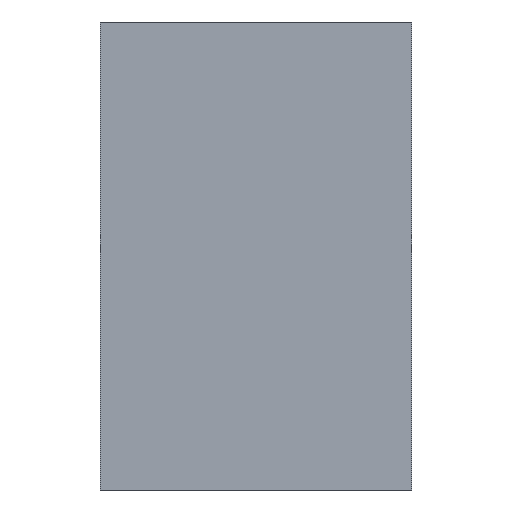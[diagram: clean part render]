
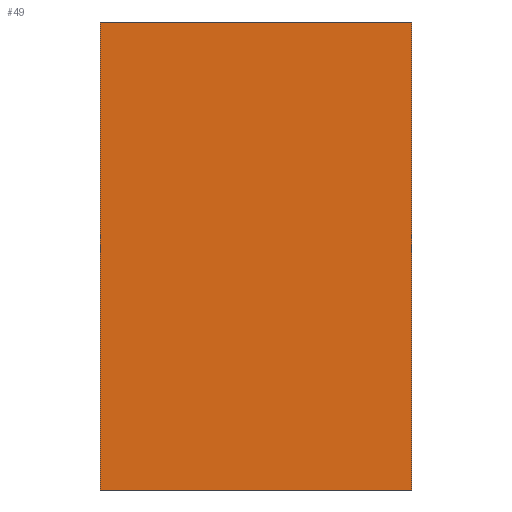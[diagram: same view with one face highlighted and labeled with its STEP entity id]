
A CAD part, front view. The second image highlights one B-rep face of the part: STEP entity #49.
In plain terms, the highlighted planar face has unit normal (0, -1, 0).
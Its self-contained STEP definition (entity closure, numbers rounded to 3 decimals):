
#4 = VERTEX_POINT ( 'NONE', #303 ) ;
#49 = ADVANCED_FACE ( 'NONE', ( #529 ), #530, .F. ) ;
#74 = ORIENTED_EDGE ( 'NONE', *, *, #222, .T. ) ;
#118 = EDGE_LOOP ( 'NONE', ( #1249, #146, #201, #74 ) ) ;
#125 = EDGE_CURVE ( 'NONE', #1197, #271, #1032, .T. ) ;
#146 = ORIENTED_EDGE ( 'NONE', *, *, #296, .F. ) ;
#196 = VERTEX_POINT ( 'NONE', #859 ) ;
#201 = ORIENTED_EDGE ( 'NONE', *, *, #125, .F. ) ;
#222 = EDGE_CURVE ( 'NONE', #1197, #4, #352, .T. ) ;
#234 = EDGE_CURVE ( 'NONE', #4, #196, #384, .T. ) ;
#271 = VERTEX_POINT ( 'NONE', #535 ) ;
#296 = EDGE_CURVE ( 'NONE', #271, #196, #711, .T. ) ;
#303 = CARTESIAN_POINT ( 'NONE',  ( -25., 0., 0. ) ) ;
#352 = LINE ( 'NONE', #353, #354 ) ;
#353 = CARTESIAN_POINT ( 'NONE',  ( -25., 0., 75. ) ) ;
#354 = VECTOR ( 'NONE', #355, 1000. ) ;
#355 = DIRECTION ( 'NONE',  ( 0., 0., -1. ) ) ;
#384 = LINE ( 'NONE', #385, #386 ) ;
#385 = CARTESIAN_POINT ( 'NONE',  ( 25., 0., 0. ) ) ;
#386 = VECTOR ( 'NONE', #387, 1000. ) ;
#387 = DIRECTION ( 'NONE',  ( 1., 0., 0. ) ) ;
#526 = CARTESIAN_POINT ( 'NONE',  ( -25., 0., 75. ) ) ;
#529 = FACE_OUTER_BOUND ( 'NONE', #118, .T. ) ;
#530 = PLANE ( 'NONE',  #531 ) ;
#531 = AXIS2_PLACEMENT_3D ( 'NONE', #532, #533, #534 ) ;
#532 = CARTESIAN_POINT ( 'NONE',  ( 25., 0., 75. ) ) ;
#533 = DIRECTION ( 'NONE',  ( 0., 1., 0. ) ) ;
#534 = DIRECTION ( 'NONE',  ( 0., 0., 1. ) ) ;
#535 = CARTESIAN_POINT ( 'NONE',  ( 25., 0., 75. ) ) ;
#711 = LINE ( 'NONE', #712, #713 ) ;
#712 = CARTESIAN_POINT ( 'NONE',  ( 25., 0., 75. ) ) ;
#713 = VECTOR ( 'NONE', #714, 1000. ) ;
#714 = DIRECTION ( 'NONE',  ( 0., 0., -1. ) ) ;
#859 = CARTESIAN_POINT ( 'NONE',  ( 25., 0., 0. ) ) ;
#1032 = LINE ( 'NONE', #1033, #1034 ) ;
#1033 = CARTESIAN_POINT ( 'NONE',  ( 25., 0., 75. ) ) ;
#1034 = VECTOR ( 'NONE', #1035, 1000. ) ;
#1035 = DIRECTION ( 'NONE',  ( 1., 0., 0. ) ) ;
#1197 = VERTEX_POINT ( 'NONE', #526 ) ;
#1249 = ORIENTED_EDGE ( 'NONE', *, *, #234, .T. ) ;
